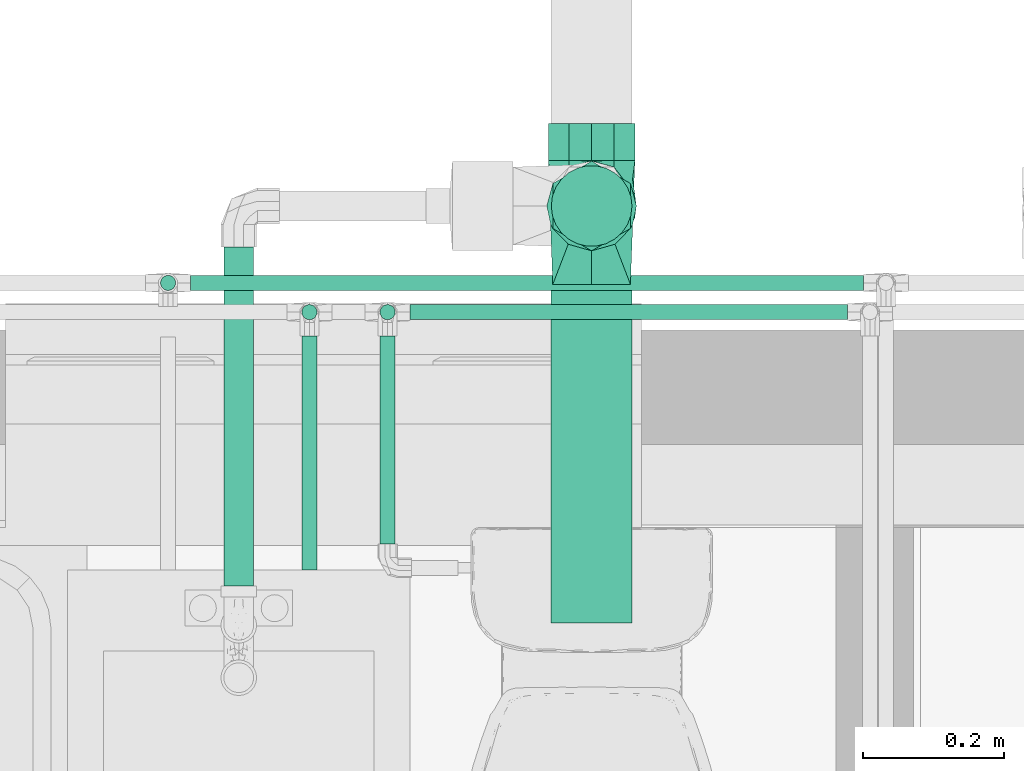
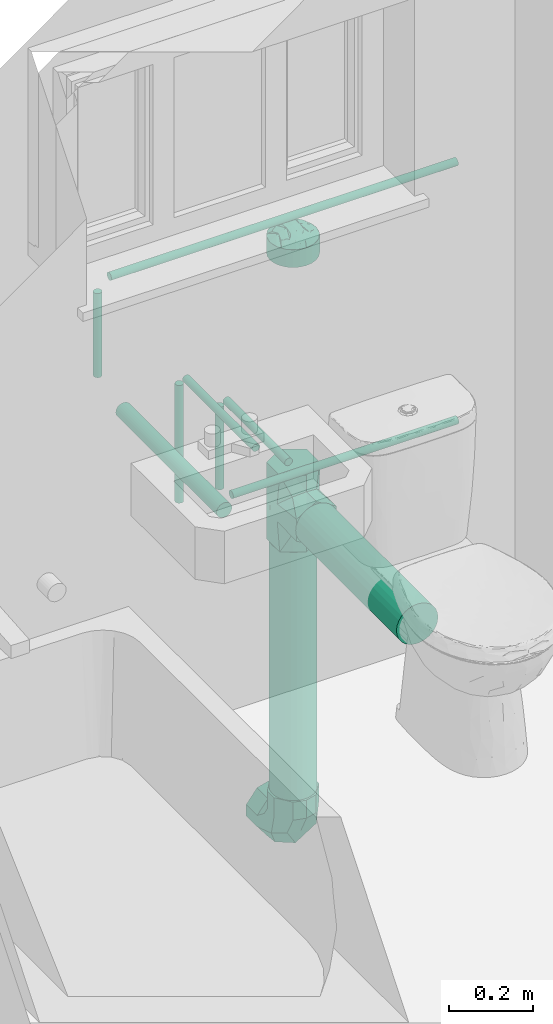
# One storey, part 23 of 41: 10 flow segments, 3 flow fittings.
"""IFC2X3 building model written with IfcOpenShell, lengths in millimetres."""

from ifc_helpers import new_model, entity, si_unit, converted_unit, derived_unit, direction, frame, frame_2d, origin, origin_2d_with_axis, place, context, subcontext, project, spatial, circle, extrude, faceted_brep, source, transform, mapped, type_object, type_shapes, element, save


model = new_model("IFC2X3")

# Units and contexts
model_context = context("Model", 3, precision=0.01, world=origin(), true_north=direction((6.12303176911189e-17, 1.0)))
body_context = subcontext(model_context, "Body", "Model", "MODEL_VIEW")
ifc_project = project(units=[si_unit("LENGTHUNIT", "METRE", prefix="MILLI"), si_unit("AREAUNIT", "SQUARE_METRE"), si_unit("VOLUMEUNIT", "CUBIC_METRE"), converted_unit("PLANEANGLEUNIT", "DEGREE", entity("IfcRatioMeasure", 0.0174532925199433), si_unit("PLANEANGLEUNIT", "RADIAN"), dimensions=[0, 0, 0, 0, 0, 0, 0]), si_unit("MASSUNIT", "GRAM", prefix="KILO"), derived_unit("MASSDENSITYUNIT", [(si_unit("MASSUNIT", "GRAM", prefix="KILO"), 1), (si_unit("LENGTHUNIT", "METRE"), -3)]), si_unit("TIMEUNIT", "SECOND"), si_unit("FREQUENCYUNIT", "HERTZ"), si_unit("THERMODYNAMICTEMPERATUREUNIT", "DEGREE_CELSIUS"), derived_unit("THERMALTRANSMITTANCEUNIT", [(si_unit("MASSUNIT", "GRAM", prefix="KILO"), 1), (si_unit("THERMODYNAMICTEMPERATUREUNIT", "KELVIN"), -1), (si_unit("TIMEUNIT", "SECOND"), -3)]), derived_unit("VOLUMETRICFLOWRATEUNIT", [(si_unit("LENGTHUNIT", "METRE"), 3), (si_unit("TIMEUNIT", "SECOND"), -1)]), si_unit("ELECTRICCURRENTUNIT", "AMPERE"), si_unit("ELECTRICVOLTAGEUNIT", "VOLT"), si_unit("POWERUNIT", "WATT"), si_unit("FORCEUNIT", "NEWTON", prefix="KILO"), si_unit("ILLUMINANCEUNIT", "LUX"), si_unit("LUMINOUSFLUXUNIT", "LUMEN"), si_unit("LUMINOUSINTENSITYUNIT", "CANDELA"), derived_unit("USERDEFINED", [(si_unit("MASSUNIT", "GRAM", prefix="KILO"), -1), (si_unit("LENGTHUNIT", "METRE"), -2), (si_unit("TIMEUNIT", "SECOND"), 3), (si_unit("LUMINOUSFLUXUNIT", "LUMEN"), 1)]), derived_unit("LINEARVELOCITYUNIT", [(si_unit("LENGTHUNIT", "METRE"), 1), (si_unit("TIMEUNIT", "SECOND"), -1)]), si_unit("PRESSUREUNIT", "PASCAL"), derived_unit("USERDEFINED", [(si_unit("LENGTHUNIT", "METRE"), -2), (si_unit("MASSUNIT", "GRAM", prefix="KILO"), 1), (si_unit("TIMEUNIT", "SECOND"), -2)])], contexts=[model_context])

# Site, building, storey
site_placement = place(None, origin())
site = spatial("IfcSite", under=ifc_project, at=site_placement, Name="Surface", CompositionType="ELEMENT")
building_placement = place(site_placement, origin())
building = spatial("IfcBuilding", under=site, at=building_placement, CompositionType="ELEMENT")
storey_placement = place(building_placement, frame((0.0, 0.0, 300.0)))
storey = spatial("IfcBuildingStorey", under=building, at=storey_placement, Name="F.F.L", CompositionType="ELEMENT", Elevation=300.0)

# Flow segments
pipe_segment_type = type_object("IfcPipeSegmentType", Name="Pipe Types:PVC80", PredefinedType="NOTDEFINED")
flow_segment_1_placement = place(storey_placement, origin())
element("IfcFlowSegment", 1, at=flow_segment_1_placement, inside=storey, type_object=pipe_segment_type, Name="Pipe Types:PVC80", ObjectType="Pipe Types:PVC80", context=body_context, shape_type="SweptSolid", body=[
    extrude(circle(Radius=10.668, at=frame_2d((0.0, -8.799187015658e-27), x_axis=(1.0, 0.0))), frame((-3271.21605386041, 10522.5776391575, 688.0), z_axis=(0.0, 1.0, 0.0), x_axis=(1.0, 0.0, 0.0)), (0.0, 0.0, 1.0), 294.524900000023),
])
flow_segment_2_placement = place(storey_placement, origin())
element("IfcFlowSegment", 2, at=flow_segment_2_placement, inside=storey, type_object=pipe_segment_type, Name="Pipe Types:PVC80", ObjectType="Pipe Types:PVC80", context=body_context, shape_type="SweptSolid", body=[
    extrude(circle(Radius=10.668, at=origin_2d_with_axis()), frame((-3271.21605386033, 10850.8400891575, 414.950000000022), z_axis=(0.0, 0.0, 1.0), x_axis=(-1.0, 0.0, 0.0)), (0.0, 0.0, 1.0), 239.312449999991),
])
flow_segment_3_placement = place(storey_placement, origin())
element("IfcFlowSegment", 3, at=flow_segment_3_placement, inside=storey, type_object=pipe_segment_type, Name="Pipe Types:PVC80", ObjectType="Pipe Types:PVC80", context=body_context, shape_type="SweptSolid", body=[
    extrude(circle(Radius=57.15, at=origin_2d_with_axis()), frame((-2982.48247092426, 10410.8400891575, 185.0), z_axis=(0.0, 1.0, 0.0), x_axis=(1.0, 0.0, 0.0)), (0.0, 0.0, 1.0), 479.176589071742),
])
flow_segment_4_placement = place(storey_placement, origin())
element("IfcFlowSegment", 4, at=flow_segment_4_placement, inside=storey, type_object=pipe_segment_type, Name="Pipe Types:PVC80", ObjectType="Pipe Types:PVC80", context=body_context, shape_type="SweptSolid", body=[
    extrude(circle(Radius=10.668, at=origin_2d_with_axis()), frame((-3381.8751700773, 10485.8400891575, 790.399999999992), z_axis=(0.0, 1.0, 0.0), x_axis=(1.0, 0.0, 0.0)), (0.0, 0.0, 1.0), 331.262449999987),
])
flow_segment_5_placement = place(storey_placement, origin())
element("IfcFlowSegment", 5, at=flow_segment_5_placement, inside=storey, type_object=pipe_segment_type, Name="Pipe Types:PVC80", ObjectType="Pipe Types:PVC80", context=body_context, shape_type="SweptSolid", body=[
    extrude(circle(Radius=10.668, at=origin_2d_with_axis()), frame((-3381.8751700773, 10850.8400891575, 414.950000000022)), (0.0, 0.0, 1.0), 341.712449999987),
])
flow_segment_6_placement = place(storey_placement, origin())
element("IfcFlowSegment", 6, at=flow_segment_6_placement, inside=storey, type_object=pipe_segment_type, Name="Pipe Types:PVC80", ObjectType="Pipe Types:PVC80", context=body_context, shape_type="SweptSolid", body=[
    extrude(circle(Radius=21.082, at=origin_2d_with_axis()), frame((-3481.87517007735, 10463.5043079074, 657.8), z_axis=(0.0, 1.0, 5.3816194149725e-05), x_axis=(1.0, 0.0, 0.0)), (0.0, 0.0, 1.0), 479.693616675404),
])
flow_segment_7_placement = place(storey_placement, origin())
element("IfcFlowSegment", 7, at=flow_segment_7_placement, inside=storey, type_object=pipe_segment_type, Name="Pipe Types:PVC80", ObjectType="Pipe Types:PVC80", context=body_context, shape_type="SweptSolid", body=[
    extrude(circle(Radius=57.15, at=frame_2d((5.41433564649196e-13, 0.0), x_axis=(1.0, 0.0))), frame((-2982.45100478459, 11001.1416737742, -646.440417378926)), (0.0, 0.0, 1.0), 720.31541737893),
])
flow_segment_8_placement = place(storey_placement, origin())
element("IfcFlowSegment", 8, at=flow_segment_8_placement, inside=storey, type_object=pipe_segment_type, Name="Pipe Types:PVC80", ObjectType="Pipe Types:PVC80", context=body_context, shape_type="SweptSolid", body=[
    extrude(circle(Radius=10.668, at=origin_2d_with_axis()), frame((-3550.12517007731, 10892.2567375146, 1100.0), z_axis=(1.0, 0.0, 0.0), x_axis=(0.0, -1.0, 0.0)), (0.0, 0.0, 1.0), 952.36246016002),
])
flow_segment_9_placement = place(storey_placement, origin())
element("IfcFlowSegment", 9, at=flow_segment_9_placement, inside=storey, type_object=pipe_segment_type, Name="Pipe Types:PVC80", ObjectType="Pipe Types:PVC80", context=body_context, shape_type="SweptSolid", body=[
    extrude(circle(Radius=10.668, at=origin_2d_with_axis()), frame((-3239.46605386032, 10850.8400891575, 383.200000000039), z_axis=(1.0, 0.0, 0.0), x_axis=(0.0, -1.0, 0.0)), (0.0, 0.0, 1.0), 619.203343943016),
])
flow_segment_10_placement = place(storey_placement, origin())
element("IfcFlowSegment", 10, at=flow_segment_10_placement, inside=storey, type_object=pipe_segment_type, Name="Pipe Types:PVC80", ObjectType="Pipe Types:PVC80", context=body_context, shape_type="SweptSolid", body=[
    extrude(circle(Radius=10.668, at=origin_2d_with_axis()), frame((-3581.8751700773, 10892.2567375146, 824.137549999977)), (0.0, 0.0, 1.0), 244.112449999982),
])

# Flow fittings
pipe_fitting_type_1 = type_object("IfcPipeFittingType", Name="Standard", PredefinedType="NOTDEFINED")
shared_shape_1 = source(origin(), body_context, "Body", "Brep", [
    faceted_brep([(66.679346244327, -45.2148932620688, 0.0), (51.5620000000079, -58.6663503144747, -24.3003979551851), (51.5620000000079, -55.2250828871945, -29.4506186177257), (51.5620000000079, -51.7838154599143, -34.6008392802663), (78.6850877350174, -5.87474337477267, 0.0), (76.5302596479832, -2.59069976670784, -22.2792195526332), (79.5020000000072, 0.0, 0.0), (72.2081607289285, 6.22854437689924, -34.123725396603), (78.6850877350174, 5.87474337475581, 0.0), (62.3794828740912, 4.72839519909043, -51.3220747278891), (66.2199387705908, 11.5179296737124, -44.4844676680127), (53.6983143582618, -60.916032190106, 0.0), (51.5620000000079, -63.5000000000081, 0.0), (51.5620000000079, -62.6595251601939, -4.22535235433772), (51.5620000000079, -61.8190503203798, -8.45070470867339), (51.5620000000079, -60.1381006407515, -16.9014094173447), (63.3933018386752, -49.1895110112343, 0.0), (60.1072574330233, -53.1641287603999, 0.0), (55.8346287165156, -58.332064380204, 0.0), (51.5620000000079, 60.138100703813, -16.9014091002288), (51.5620000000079, 61.8190503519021, -8.45070455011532), (51.5620000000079, 62.6595251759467, -4.22535227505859), (51.5620000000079, 63.4999999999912, 0.0), (53.6983143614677, 60.9160321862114, 0.0), (55.8346287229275, 58.3320643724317, 0.0), (60.1072574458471, 53.1641287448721, 0.0), (63.393301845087, 49.189511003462, 0.0), (66.679346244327, 45.2148932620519, 0.0), (51.5620000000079, 58.666350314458, -24.3003979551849), (63.6873696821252, 45.2556517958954, -20.6403225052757), (65.0659754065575, 40.340853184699, -25.5135279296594), (51.5620000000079, 44.9012806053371, -44.9012806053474), (76.2343509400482, 23.4989734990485, 0.0), (67.5243727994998, 34.3600083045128, -27.1876913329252), (73.8455997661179, 28.9279534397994, 0.0), (51.5620000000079, 48.3425480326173, -39.7510599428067), (51.5620000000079, 51.7838154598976, -34.6008392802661), (65.3302524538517, -18.3321515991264, -43.6382086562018), (51.5620000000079, -24.3003979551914, -58.6663503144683), (51.5620000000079, -18.2252984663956, -59.8747627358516), (51.5620000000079, -12.1501989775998, -61.0831751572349), (61.3419750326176, -9.36308218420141, -52.0649504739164), (67.5737117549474, -27.8805189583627, -33.6918068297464), (69.7049697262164, -1.10291101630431, -39.8800753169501), (77.0512632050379, -17.6242301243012, 0.0), (73.9855221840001, -19.8135311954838, -22.9619444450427), (77.8681754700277, -11.7494867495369, 0.0), (65.0659741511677, -40.3408530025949, -25.5135317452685), (73.8455997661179, -28.9279534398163, 0.0), (71.4568485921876, -34.3569333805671, 0.0), (63.6873669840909, -45.2556536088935, -20.6403277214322), (51.5620000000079, -48.3425480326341, -39.7510599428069), (51.5620000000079, -44.9012806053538, -44.9012806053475), (67.4407149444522, -34.3809909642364, -27.3884628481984), (76.2343509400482, -23.4989734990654, 0.0), (77.0512632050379, 17.6242301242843, 0.0), (75.0617680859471, 18.0330959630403, -20.4928784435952), (67.5090288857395, 27.9542914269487, -33.7729719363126), (75.2304434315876, -13.4513354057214, -23.1651882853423), (70.0928968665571, -8.76552330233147, -38.150090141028), (51.5620000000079, 24.3003979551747, -58.6663503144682), (68.6687386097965, 18.1638290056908, -37.6674086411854), (51.5620000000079, 18.2252984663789, -59.8747627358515), (74.1566766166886, 12.9333676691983, -26.9245465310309), (77.8681754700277, 11.7494867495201, 0.0), (51.5620000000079, 29.4506186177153, -55.225082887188), (51.5620000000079, 34.6008392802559, -51.7838154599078), (71.4568485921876, 34.3569333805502, 0.0), (51.5620000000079, 39.7510599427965, -48.3425480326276), (69.0680974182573, 39.7859133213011, 0.0), (51.5620000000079, 0.0, -63.5000000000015), (69.0680974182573, -39.7859133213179, 0.0), (51.5620000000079, -39.7510599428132, -48.3425480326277), (51.5620000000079, -34.6008392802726, -51.7838154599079), (51.5620000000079, -29.450618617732, -55.2250828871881), (51.5620000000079, -6.07509948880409, -62.2915875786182), (51.5620000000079, 12.1501989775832, -61.0831751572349), (51.5620000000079, 6.07509948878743, -62.2915875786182), (51.5620000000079, 55.2250828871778, -29.4506186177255), (51.5620000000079, 58.6663503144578, 24.3003979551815), (51.5620000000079, 55.2250828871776, 29.4506186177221), (51.5620000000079, 51.7838154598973, 34.6008392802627), (76.5302593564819, 2.59069969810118, 22.2792206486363), (72.2081607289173, -6.22854404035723, 34.1237254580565), (62.3794827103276, -4.72839539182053, 51.3220749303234), (66.2199393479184, -11.5179295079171, 44.4844667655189), (51.5620000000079, -58.6663503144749, 24.300397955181), (51.5620000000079, -60.1381007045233, 16.9014090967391), (51.5620000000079, -61.8190503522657, 8.45070454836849), (51.5620000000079, -62.6595251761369, 4.22535227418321), (67.4407172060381, 34.3809907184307, 27.3884570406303), (63.6873696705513, -45.2556517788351, 20.6403225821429), (65.065975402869, -40.3408531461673, 25.5135280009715), (51.5620000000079, -44.9012806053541, 44.9012806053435), (67.5243730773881, -34.3600081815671, 27.1876907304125), (51.5620000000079, 62.6595251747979, 4.22535228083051), (51.5620000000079, 61.8190503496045, 8.45070456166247), (51.5620000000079, 60.1381006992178, 16.9014091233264), (65.3302515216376, 18.3321520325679, 43.6382100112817), (51.5620000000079, 12.1501989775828, 61.0831751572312), (61.3419747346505, 9.36308244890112, 52.0649508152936), (51.5620000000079, 24.3003979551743, 58.6663503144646), (51.5620000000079, 18.2252984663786, 59.8747627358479), (67.5737113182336, 27.8805198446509, 33.6918070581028), (69.7049691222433, 1.10291147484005, 39.8800764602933), (73.9855219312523, 19.8135312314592, 22.961945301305), (65.0659754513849, 40.3408531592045, 25.5135278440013), (63.6873697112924, 45.2556517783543, 20.6403224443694), (51.5620000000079, 48.3425480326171, 39.7510599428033), (51.5620000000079, 44.9012806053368, 44.9012806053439), (51.5620000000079, -48.3425480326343, 39.7510599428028), (51.5620000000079, -51.7838154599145, 34.6008392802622), (75.0617681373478, -18.0330961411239, 20.4928780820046), (67.5090287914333, -27.9542914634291, 33.7729721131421), (75.230443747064, 13.4513352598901, 23.1651872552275), (70.0928964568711, 8.76552404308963, 38.1500907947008), (51.5620000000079, -24.3003979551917, 58.6663503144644), (68.6687387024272, -18.1638288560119, 37.6674085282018), (51.5620000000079, -18.225298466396, 59.8747627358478), (74.1566771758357, -12.9333675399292, 26.9245449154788), (51.5620000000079, -29.4506186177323, 55.2250828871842), (51.5620000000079, -34.6008392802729, 51.7838154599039), (51.5620000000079, -39.7510599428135, 48.3425480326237), (51.5620000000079, 34.6008392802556, 51.7838154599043), (51.5620000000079, 0.0, 63.4999999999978), (51.5620000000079, 39.7510599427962, 48.3425480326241), (51.5620000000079, 29.450618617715, 55.2250828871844), (51.5620000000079, 6.07509948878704, 62.2915875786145), (51.5620000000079, -12.1501989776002, 61.0831751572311), (51.5620000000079, -6.07509948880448, 62.2915875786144), (51.5620000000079, -55.2250828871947, 29.4506186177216), (51.5620000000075, 0.0, 0.0)], [[[0, 1, 2, 3]], [[4, 5, 6]], [[7, 8, 5]], [[9, 10, 7]], [[11, 12, 13, 14, 15, 1, 0, 16, 17, 18]], [[19, 20, 21, 22, 23, 24, 25, 26, 27, 28]], [[29, 30, 31]], [[32, 33, 34]], [[35, 36, 29, 31]], [[37, 38, 39, 40]], [[41, 37, 40]], [[42, 38, 37]], [[7, 5, 43]], [[44, 45, 46]], [[47, 48, 49]], [[50, 3, 51, 52]], [[53, 54, 48]], [[55, 56, 57]], [[5, 58, 59]], [[60, 61, 62]], [[43, 9, 7]], [[10, 62, 61]], [[10, 63, 7]], [[32, 57, 33]], [[64, 63, 56]], [[65, 66, 57, 60]], [[67, 34, 30]], [[66, 33, 57]], [[33, 68, 30]], [[34, 33, 30]], [[36, 69, 29]], [[57, 32, 55]], [[67, 29, 69]], [[30, 29, 67]], [[46, 45, 58]], [[43, 70, 9]], [[45, 42, 37]], [[3, 50, 71]], [[54, 53, 42]], [[53, 47, 72]], [[42, 73, 74, 38]], [[49, 50, 47]], [[47, 52, 72]], [[72, 73, 53]], [[53, 48, 47]], [[71, 50, 49]], [[47, 50, 52]], [[3, 71, 0]], [[44, 54, 42]], [[42, 45, 44]], [[58, 37, 59]], [[37, 58, 45]], [[43, 5, 59]], [[5, 4, 58]], [[4, 46, 58]], [[63, 8, 7]], [[41, 40, 75, 70]], [[6, 5, 8]], [[59, 41, 43]], [[76, 9, 70, 77]], [[62, 10, 76]], [[43, 41, 70]], [[37, 41, 59]], [[10, 9, 76]], [[63, 10, 61]], [[56, 63, 61]], [[8, 63, 64]], [[57, 56, 61]], [[55, 64, 56]], [[27, 36, 78, 28]], [[36, 27, 69]], [[61, 60, 57]], [[68, 33, 66]], [[68, 31, 30]], [[73, 42, 53]], [[27, 79, 80, 81]], [[8, 82, 6]], [[83, 4, 82]], [[84, 85, 83]], [[11, 18, 17, 16, 0, 86, 87, 88, 89, 12]], [[90, 32, 34]], [[91, 92, 93]], [[54, 94, 48]], [[79, 27, 26, 25, 24, 23, 22, 95, 96, 97]], [[98, 99, 100]], [[98, 101, 102, 99]], [[103, 101, 98]], [[83, 82, 104]], [[55, 105, 64]], [[106, 34, 67]], [[107, 81, 108, 109]], [[110, 111, 91, 93]], [[44, 112, 113]], [[82, 114, 115]], [[116, 117, 118]], [[104, 84, 83]], [[85, 118, 117]], [[85, 119, 83]], [[54, 113, 94]], [[46, 119, 112]], [[120, 121, 113, 116]], [[49, 48, 92]], [[121, 94, 113]], [[94, 122, 92]], [[48, 94, 92]], [[123, 103, 90]], [[111, 71, 91]], [[113, 54, 44]], [[49, 91, 71]], [[92, 91, 49]], [[64, 105, 114]], [[104, 124, 84]], [[105, 103, 98]], [[81, 107, 69]], [[32, 90, 103]], [[90, 106, 125]], [[103, 123, 126, 101]], [[67, 107, 106]], [[106, 109, 125]], [[125, 123, 90]], [[90, 34, 106]], [[69, 107, 67]], [[106, 107, 109]], [[81, 69, 27]], [[55, 32, 103]], [[103, 105, 55]], [[114, 98, 115]], [[98, 114, 105]], [[104, 82, 115]], [[82, 8, 114]], [[8, 64, 114]], [[119, 4, 83]], [[100, 99, 127, 124]], [[6, 82, 4]], [[115, 100, 104]], [[128, 84, 124, 129]], [[118, 85, 128]], [[104, 100, 124]], [[98, 100, 115]], [[85, 84, 128]], [[119, 85, 117]], [[112, 119, 117]], [[4, 119, 46]], [[113, 112, 117]], [[44, 46, 112]], [[0, 111, 130, 86]], [[111, 0, 71]], [[117, 116, 113]], [[122, 94, 121]], [[122, 93, 92]], [[131, 1, 15]], [[131, 15, 14]], [[131, 14, 13]], [[131, 13, 12]], [[131, 12, 89]], [[131, 2, 1]], [[131, 3, 2]], [[131, 51, 3]], [[131, 52, 51]], [[131, 72, 52]], [[131, 73, 72]], [[131, 74, 73]], [[131, 38, 74]], [[131, 39, 38]], [[131, 40, 39]], [[131, 75, 40]], [[131, 70, 75]], [[131, 77, 70]], [[131, 76, 77]], [[131, 62, 76]], [[131, 60, 62]], [[131, 65, 60]], [[131, 66, 65]], [[131, 68, 66]], [[131, 31, 68]], [[131, 35, 31]], [[131, 36, 35]], [[131, 78, 36]], [[131, 28, 78]], [[131, 19, 28]], [[131, 20, 19]], [[131, 21, 20]], [[131, 22, 21]], [[131, 89, 88]], [[131, 88, 87]], [[131, 87, 86]], [[131, 86, 130]], [[131, 130, 111]], [[131, 111, 110]], [[131, 110, 93]], [[131, 93, 122]], [[131, 122, 121]], [[131, 121, 120]], [[131, 120, 116]], [[131, 116, 118]], [[131, 118, 128]], [[131, 128, 129]], [[131, 129, 124]], [[131, 124, 127]], [[131, 95, 22]], [[131, 96, 95]], [[131, 97, 96]], [[131, 79, 97]], [[131, 80, 79]], [[131, 81, 80]], [[131, 108, 81]], [[131, 109, 108]], [[131, 125, 109]], [[131, 123, 125]], [[131, 126, 123]], [[131, 101, 126]], [[131, 127, 99]], [[131, 99, 102]], [[131, 102, 101]]]),
    faceted_brep([(51.5620000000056, 16.4350093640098, -61.3362899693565), (51.5620000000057, 31.7499999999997, -54.9926131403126), (51.5620000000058, 44.9012806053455, -44.9012806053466), (51.5620000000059, 54.9926131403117, -31.7500000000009), (51.5620000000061, 61.3362899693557, -16.435009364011), (51.5620000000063, 63.5, 0.0), (51.5620000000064, 61.3362899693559, 16.4350093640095), (51.5620000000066, 54.9926131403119, 31.7499999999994), (51.5620000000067, 44.9012806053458, 44.9012806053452), (51.5620000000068, 31.7500000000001, 54.9926131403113), (51.5620000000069, 16.4350093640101, 61.3362899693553), (51.5620000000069, 0.0, 63.4999999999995), (51.5620000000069, -16.43500936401, 61.3362899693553), (51.5620000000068, -31.7499999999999, 54.9926131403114), (51.5620000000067, -44.9012806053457, 44.9012806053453), (51.5620000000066, -54.9926131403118, 31.7499999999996), (51.5620000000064, -61.3362899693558, 16.4350093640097), (51.5620000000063, -63.5, 0.0), (51.5620000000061, -61.3362899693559, -16.4350093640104), (51.5620000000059, -54.992613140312, -31.7500000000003), (51.5620000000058, -44.9012806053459, -44.9012806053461), (51.5620000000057, -31.7500000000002, -54.9926131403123), (51.5620000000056, -16.4350093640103, -61.3362899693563), (51.5620000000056, 0.0, -63.5000000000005), (0.0, 0.0, 63.5), (0.0, 16.4350093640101, 61.3362899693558), (0.0, 31.7500000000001, 54.9926131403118), (0.0, 44.9012806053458, 44.9012806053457), (0.0, 54.9926131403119, 31.75), (0.0, 61.3362899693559, 16.4350093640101), (0.0, 63.5, 0.0), (0.0, 61.3362899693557, -16.4350093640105), (0.0, 54.9926131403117, -31.7500000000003), (0.0, 44.9012806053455, -44.901280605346), (0.0, 31.7499999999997, -54.992613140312), (0.0, 16.4350093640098, -61.3362899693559), (0.0, 0.0, -63.5), (0.0, -16.4350093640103, -61.3362899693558), (0.0, -31.7500000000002, -54.9926131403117), (0.0, -44.9012806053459, -44.9012806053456), (0.0, -54.992613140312, -31.7499999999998), (0.0, -61.3362899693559, -16.4350093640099), (0.0, -63.5, 0.0), (0.0, -61.3362899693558, 16.4350093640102), (0.0, -54.9926131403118, 31.7500000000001), (0.0, -44.9012806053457, 44.9012806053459), (0.0, -31.7499999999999, 54.9926131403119), (0.0, -16.43500936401, 61.3362899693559)], [[[0, 1, 2, 3, 4, 5, 6, 7, 8, 9, 10, 11, 12, 13, 14, 15, 16, 17, 18, 19, 20, 21, 22, 23]], [[24, 25, 26, 27, 28, 29, 30, 31, 32, 33, 34, 35, 36, 37, 38, 39, 40, 41, 42, 43, 44, 45, 46, 47]], [[41, 18, 17, 42]], [[40, 19, 18, 41]], [[40, 39, 20, 19]], [[39, 38, 21, 20]], [[37, 22, 21, 38]], [[23, 22, 37, 36]], [[0, 35, 34, 1]], [[33, 2, 1, 34]], [[3, 32, 31, 4]], [[33, 32, 3, 2]], [[4, 31, 30, 5]], [[35, 0, 23, 36]], [[29, 6, 5, 30]], [[28, 7, 6, 29]], [[9, 8, 27, 26]], [[28, 27, 8, 7]], [[10, 9, 26, 25]], [[10, 25, 24, 11]], [[12, 47, 46, 13]], [[45, 14, 13, 46]], [[15, 44, 43, 16]], [[45, 44, 15, 14]], [[16, 43, 42, 17]], [[47, 12, 11, 24]]]),
])
type_shapes(pipe_fitting_type_1, [shared_shape_1])
flow_fitting_1_placement = place(storey_placement, frame((-2982.62828284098, 11001.1416737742, 904.889466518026), z_axis=(0.0, 1.0, 0.0), x_axis=(0.0, 0.0, 1.0)))
element("IfcFlowFitting", 11, at=flow_fitting_1_placement, inside=storey, type_object=pipe_fitting_type_1, Name="M_Cap - PVC - Sch 40:Standard", ObjectType="Standard", context=body_context, shape_type="MappedRepresentation", body=[
    mapped(shared_shape_1, transform((0.0, 0.0, 0.0), scale=1.0)),
])
pipe_fitting_type_2 = type_object("IfcPipeFittingType", Name="Standard", PredefinedType="NOTDEFINED")
shared_shape_2 = source(origin(), body_context, "Body", "Brep", [
    faceted_brep([(-111.124999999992, 31.7499999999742, 54.9926131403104), (-111.124999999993, 47.6249999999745, 27.4963065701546), (-111.124999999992, 63.4999999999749, 0.0), (-111.124999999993, 44.5212450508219, -32.8721678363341), (-111.124999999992, 31.7499999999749, -54.9926131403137), (-111.124999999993, 0.0, -54.9926131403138), (-111.124999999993, -31.750000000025, -54.9926131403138), (-111.124999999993, -47.6250000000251, -27.4963065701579), (-111.124999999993, -63.5000000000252, 0.0), (-111.124999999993, -47.6250000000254, 27.4963065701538), (-111.124999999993, -31.7500000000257, 54.9926131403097), (-111.124999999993, 0.0, 54.99261314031), (111.125000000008, 31.7499999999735, 54.9926131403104), (111.125000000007, 0.0, 54.99261314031), (111.125000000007, -31.7500000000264, 54.9926131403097), (111.125000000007, -47.6250000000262, 27.4963065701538), (111.125000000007, -63.5000000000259, 0.0), (111.125000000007, -47.6250000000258, -27.4963065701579), (111.125000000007, -31.7500000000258, -54.9926131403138), (111.125000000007, 0.0, -54.9926131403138), (111.125000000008, 31.7499999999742, -54.9926131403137), (111.125000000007, 47.6249999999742, -27.4963065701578), (111.125000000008, 63.4999999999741, 0.0), (111.125000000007, 44.5212464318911, 32.8721654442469), (63.5000000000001, -63.5000000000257, 0.0), (-63.4999999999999, -63.5000000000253, 0.0), (54.1778262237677, -54.1778262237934, 33.1211887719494), (25.3375161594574, -25.3375161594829, 58.2259415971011), (0.0, 0.0, 63.4999999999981), (-54.1778262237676, -54.177826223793, 33.1211887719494), (-25.3375161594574, -25.3375161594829, 58.225941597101), (25.3375161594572, -25.3375161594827, -58.2259415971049), (0.0, 0.0, -63.5000000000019), (-54.1778262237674, -54.1778262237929, -33.1211887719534), (-25.3375161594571, -25.3375161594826, -58.2259415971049), (54.1778262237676, -54.1778262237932, -33.1211887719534), (31.7499999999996, -111.125000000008, 54.9926131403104), (0.0, -111.125000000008, 54.99261314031), (-31.7500000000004, -111.125000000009, 54.9926131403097), (-47.6250000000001, -111.125000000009, 27.4963065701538), (-63.4999999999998, -111.125000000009, 0.0), (-47.6249999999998, -111.125000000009, -27.4963065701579), (-31.7499999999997, -111.125000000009, -54.9926131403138), (0.0, -111.125000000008, -54.9926131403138), (31.7500000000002, -111.125000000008, -54.9926131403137), (47.6250000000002, -111.125000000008, -27.4963065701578), (63.5000000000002, -111.125000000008, 0.0), (47.6249999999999, -111.125000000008, 27.4963065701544)], [[[0, 1, 2, 3, 4, 5, 6, 7, 8, 9, 10, 11]], [[12, 13, 14, 15, 16, 17, 18, 19, 20, 21, 22, 23]], [[16, 15, 24]], [[9, 8, 25]], [[22, 2, 1, 0, 12, 23]], [[26, 15, 14]], [[27, 13, 28]], [[25, 29, 9]], [[30, 10, 29]], [[24, 15, 26]], [[29, 10, 9]], [[27, 14, 13]], [[28, 13, 12]], [[11, 10, 30]], [[28, 0, 11]], [[0, 28, 12]], [[11, 30, 28]], [[27, 26, 14]], [[20, 4, 3, 2, 22, 21]], [[31, 19, 18]], [[32, 19, 31]], [[4, 32, 5]], [[25, 7, 33]], [[20, 32, 4]], [[5, 34, 6]], [[34, 5, 32]], [[32, 20, 19]], [[17, 16, 24]], [[8, 7, 25]], [[24, 35, 17]], [[6, 33, 7]], [[6, 34, 33]], [[35, 18, 17]], [[31, 18, 35]], [[36, 37, 38, 39, 40, 41, 42, 43, 44, 45, 46, 47]], [[39, 38, 29]], [[25, 39, 29]], [[25, 40, 39]], [[30, 29, 38]], [[30, 38, 37, 36, 27]], [[47, 46, 24]], [[47, 24, 26]], [[26, 36, 47]], [[30, 27, 28]], [[26, 27, 36]], [[45, 44, 35]], [[24, 45, 35]], [[24, 46, 45]], [[31, 35, 44]], [[43, 42, 34, 31, 44]], [[41, 40, 25]], [[34, 32, 31]], [[41, 25, 33]], [[33, 42, 41]], [[33, 34, 42]]]),
])
type_shapes(pipe_fitting_type_2, [shared_shape_2])
flow_fitting_2_placement = place(storey_placement, frame((-2982.45100478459, 11001.1416737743, 185.0), z_axis=(-0.999999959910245, 0.000283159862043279, 0.0), x_axis=(0.0, 0.0, 1.0)))
element("IfcFlowFitting", 12, at=flow_fitting_2_placement, inside=storey, type_object=pipe_fitting_type_2, Name="M_Tee - PVC - Sch 40:Standard", ObjectType="Standard", context=body_context, shape_type="MappedRepresentation", body=[
    mapped(shared_shape_2, transform((0.0, 0.0, 0.0), scale=1.0)),
])
pipe_fitting_type_3 = type_object("IfcPipeFittingType", Name="Standard", PredefinedType="NOTDEFINED")
shared_shape_3 = source(origin(), body_context, "Body", "Brep", [
    faceted_brep([(-116.69394999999, -16.4350093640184, -61.3362899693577), (-116.693949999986, -54.9926131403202, -31.750000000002), (-116.693949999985, -63.5000000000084, 0.0), (-116.693949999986, -54.9926131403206, 31.7499999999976), (-116.69394999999, -16.4350093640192, 61.3362899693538), (-116.693949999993, 16.435009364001, 61.3362899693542), (-116.693949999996, 54.9926131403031, 31.7499999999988), (-116.693949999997, 63.4999999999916, 0.0), (-116.693949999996, 54.9926131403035, -31.7500000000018), (-116.693949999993, 16.4350093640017, -61.3362899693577), (-64.2937499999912, -63.5000000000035, 0.0), (-64.2937499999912, -54.9926131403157, 31.7499999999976), (-64.2937499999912, -16.4350093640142, 61.3362899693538), (-64.2937499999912, 16.4350093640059, 61.3362899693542), (16.4350093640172, 116.693949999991, 61.3362899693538), (-16.4350093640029, 116.693949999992, 61.3362899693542), (-16.4350093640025, 64.2937499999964, 61.3362899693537), (16.4350093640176, 64.2937499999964, 61.3362899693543), (-64.2937499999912, 54.992613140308, 31.7499999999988), (-64.2937499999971, 63.4999999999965, 0.0), (-64.2937499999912, 54.9926131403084, -31.7500000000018), (-64.2937499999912, 16.4350093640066, -61.3362899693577), (-64.2937499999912, -16.4350093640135, -61.3362899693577), (-16.4350093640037, 116.693949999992, -61.3362899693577), (16.4350093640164, 116.693949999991, -61.3362899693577), (16.4350093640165, 64.2937499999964, -61.3362899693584), (-16.4350093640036, 64.2937499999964, -61.3362899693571), (-64.2937499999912, -54.9926131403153, -31.750000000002), (-1.84954774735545, 1.84954166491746, 58.7834716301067), (-22.4375974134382, -41.2705704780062, 40.0641295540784), (-9.78574902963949, -35.7267863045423, 0.0), (40.7396863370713, 19.0899363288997, 39.0748930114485), (54.9926131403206, 64.2937499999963, 31.7499999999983), (39.0935655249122, -10.8215315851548, 0.0), (-63.7324839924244, 63.7324839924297, 0.0), (-54.992613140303, 64.2937499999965, 31.7499999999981), (-37.3963380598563, 37.396337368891, 57.8180038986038), (63.5000000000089, 64.2937499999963, 0.0), (-63.4999999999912, 64.2937499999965, 0.0), (-22.4375972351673, -41.2705704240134, -40.0641295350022), (40.7396861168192, 19.0899365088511, -39.0748933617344), (-1.84954687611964, 1.84954159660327, -58.7834713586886), (-54.9926131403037, 64.2937499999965, -31.7500000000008), (-37.3963376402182, 37.39633706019, -57.8180041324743), (54.99261314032, 64.2937499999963, -31.7500000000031), (-54.9926131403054, 116.693949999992, -31.7500000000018), (-63.4999999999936, 116.693949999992, 0.0), (-54.992613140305, 116.693949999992, 31.7499999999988), (54.9926131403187, 116.693949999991, 31.7499999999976), (63.5000000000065, 116.693949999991, 0.0), (54.9926131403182, 116.693949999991, -31.750000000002)], [[[0, 1, 2, 3, 4, 5, 6, 7, 8, 9]], [[2, 10, 11, 3]], [[3, 11, 12, 4]], [[12, 13, 5, 4]], [[14, 15, 16, 17]], [[5, 13, 18, 6]], [[6, 18, 19, 7]], [[7, 19, 20, 8]], [[8, 20, 21, 9]], [[21, 22, 0, 9]], [[23, 24, 25, 26]], [[0, 22, 27, 1]], [[1, 27, 10, 2]], [[12, 28, 13]], [[29, 11, 30]], [[29, 31, 28]], [[28, 12, 29]], [[32, 31, 33]], [[34, 18, 35]], [[18, 36, 35]], [[34, 19, 18]], [[18, 13, 36]], [[11, 10, 30]], [[29, 33, 31]], [[33, 37, 32]], [[33, 29, 30]], [[32, 17, 31]], [[28, 36, 13]], [[34, 35, 38]], [[29, 12, 11]], [[36, 16, 35]], [[36, 28, 16]], [[17, 28, 31]], [[16, 28, 17]], [[20, 19, 34]], [[39, 40, 33]], [[39, 41, 40]], [[20, 42, 43]], [[39, 30, 27]], [[41, 21, 43]], [[44, 40, 25]], [[41, 43, 26]], [[27, 30, 10]], [[20, 34, 42]], [[42, 26, 43]], [[41, 25, 40]], [[39, 27, 22]], [[25, 41, 26]], [[40, 44, 33]], [[22, 21, 41]], [[44, 37, 33]], [[22, 41, 39]], [[39, 33, 30]], [[20, 43, 21]], [[42, 34, 38]], [[23, 45, 46, 47, 15, 14, 48, 49, 50, 24]], [[37, 49, 48, 32]], [[32, 48, 14, 17]], [[16, 15, 47, 35]], [[35, 47, 46, 38]], [[38, 46, 45, 42]], [[42, 45, 23, 26]], [[25, 24, 50, 44]], [[44, 50, 49, 37]]]),
])
type_shapes(pipe_fitting_type_3, [shared_shape_3])
flow_fitting_3_placement = place(storey_placement, frame((-2982.45100478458, 11001.1416737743, -763.134367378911), z_axis=(1.0, 0.0, 0.0), x_axis=(0.0, 0.0, -1.0)))
element("IfcFlowFitting", 13, at=flow_fitting_3_placement, inside=storey, type_object=pipe_fitting_type_3, Name="M_Elbow - PVC - Sch 40:Standard", ObjectType="Standard", context=body_context, shape_type="MappedRepresentation", body=[
    mapped(shared_shape_3, transform((0.0, 0.0, 0.0), scale=1.0)),
])

save(model, "model.ifc")
